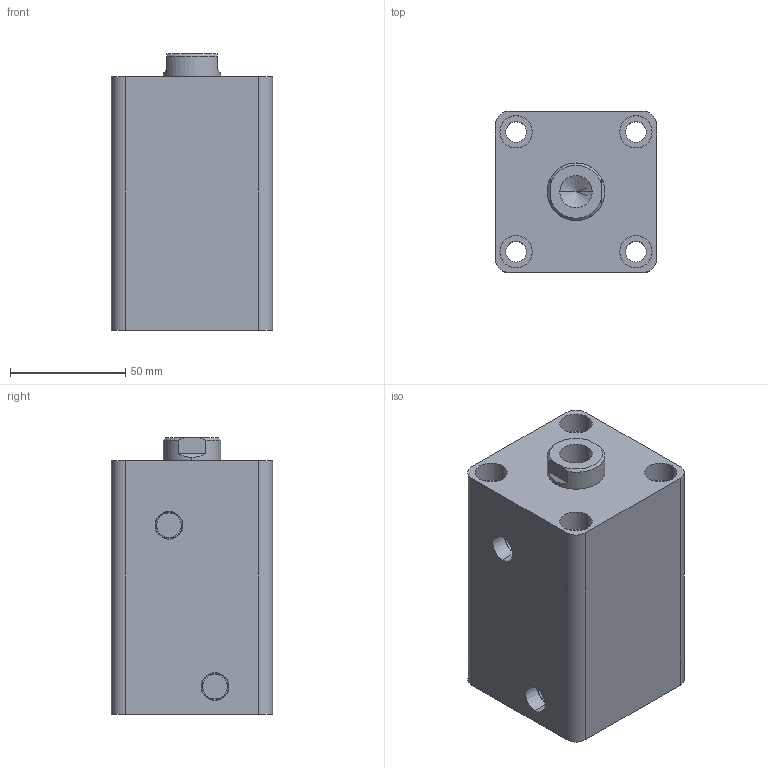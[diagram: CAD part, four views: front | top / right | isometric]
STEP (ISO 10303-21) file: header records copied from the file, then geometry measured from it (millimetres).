
FILE_DESCRIPTION (( 'STEP AP203' ), '1' );
FILE_NAME ('HTB-SD40-55N.STEP', '2019-10-07T06:53:34', ( '微软用户' ), ( '微软中国' ), 'SwSTEP 2.0', 'SolidWorks 2012', '' );
FILE_SCHEMA (( 'CONFIG_CONTROL_DESIGN' ));
Length unit declared in the file: millimetre
Products named in the file (3): HTB-SD40-55掛极; HTB-SD40-55N活塞杆; HTB-SD40-55N
Assembly tree (2 placements, depth 2):
  HTB-SD40-55N
    HTB-SD40-55掛极
    HTB-SD40-55N活塞杆
Bounding box: 70 x 70 x 120 mm (x, y, z)
Volume: 458446.7 mm3; surface area: 78765.3 mm2
Topology: 2 solids, 2 shells, 81 faces, 180 edges, 117 vertices
Faces by surface type: cylinder 42, plane 27, cone 8, torus 4
Entity records: 2603 total; most frequent: DIRECTION 444, CARTESIAN_POINT 409, ORIENTED_EDGE 356, AXIS2_PLACEMENT_3D 188, EDGE_CURVE 178, VERTEX_POINT 117, EDGE_LOOP 105, CIRCLE 102
